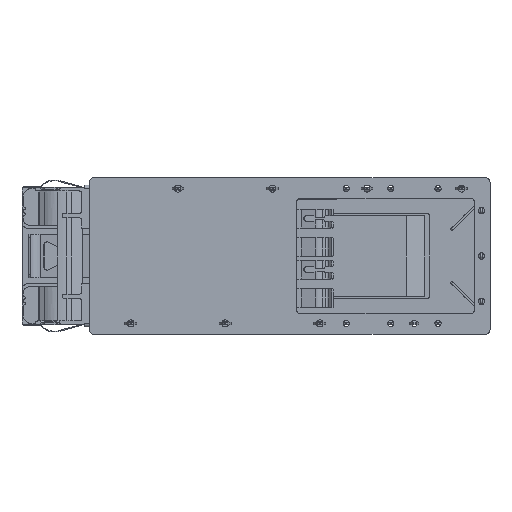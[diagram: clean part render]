
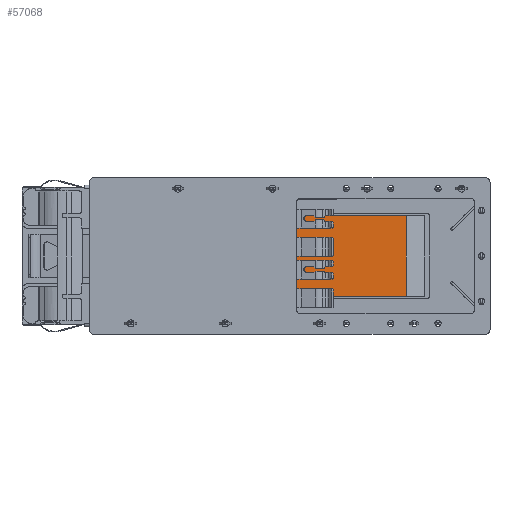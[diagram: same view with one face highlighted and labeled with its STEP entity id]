
A CAD part, front view. The second image highlights one B-rep face of the part: STEP entity #57068.
In plain terms, the highlighted planar face has unit normal (0, -1, 0).
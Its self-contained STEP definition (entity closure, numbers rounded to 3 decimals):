
#3349 = VECTOR ( 'NONE', #25259, 1000. ) ;
#4019 = CARTESIAN_POINT ( 'NONE',  ( 40.645, -0.85, -11.5 ) ) ;
#4739 = AXIS2_PLACEMENT_3D ( 'NONE', #43650, #16456, #48301 ) ;
#5439 = ORIENTED_EDGE ( 'NONE', *, *, #14724, .F. ) ;
#6551 = LINE ( 'NONE', #49540, #52245 ) ;
#6859 = CARTESIAN_POINT ( 'NONE',  ( 15.755, -0.85, -11.5 ) ) ;
#9819 = ORIENTED_EDGE ( 'NONE', *, *, #19272, .F. ) ;
#11631 = PLANE ( 'NONE',  #4739 ) ;
#14724 = EDGE_CURVE ( 'NONE', #48180, #23781, #6551, .T. ) ;
#15542 = LINE ( 'NONE', #20711, #3349 ) ;
#16456 = DIRECTION ( 'NONE',  ( 0., 1., 0. ) ) ;
#17778 = CARTESIAN_POINT ( 'NONE',  ( 40.645, -0.85, -3. ) ) ;
#19272 = EDGE_CURVE ( 'NONE', #33891, #32807, #15542, .T. ) ;
#20095 = VECTOR ( 'NONE', #25857, 1000. ) ;
#20711 = CARTESIAN_POINT ( 'NONE',  ( 15.755, -0.85, -11.5 ) ) ;
#22222 = DIRECTION ( 'NONE',  ( 0., 0., -1. ) ) ;
#22619 = DIRECTION ( 'NONE',  ( -1., 0., 0. ) ) ;
#23649 = FACE_OUTER_BOUND ( 'NONE', #54962, .T. ) ;
#23781 = VERTEX_POINT ( 'NONE', #4019 ) ;
#25259 = DIRECTION ( 'NONE',  ( 0., 0., 1. ) ) ;
#25857 = DIRECTION ( 'NONE',  ( 1., 0., 0. ) ) ;
#30429 = CARTESIAN_POINT ( 'NONE',  ( 40.645, -0.85, -3. ) ) ;
#32162 = LINE ( 'NONE', #30429, #20095 ) ;
#32807 = VERTEX_POINT ( 'NONE', #43450 ) ;
#33891 = VERTEX_POINT ( 'NONE', #6859 ) ;
#35838 = LINE ( 'NONE', #36384, #57198 ) ;
#36384 = CARTESIAN_POINT ( 'NONE',  ( 40.645, -0.85, -11.5 ) ) ;
#43450 = CARTESIAN_POINT ( 'NONE',  ( 15.755, -0.85, -3. ) ) ;
#43650 = CARTESIAN_POINT ( 'NONE',  ( 40.645, -0.85, -11.5 ) ) ;
#48180 = VERTEX_POINT ( 'NONE', #17778 ) ;
#48301 = DIRECTION ( 'NONE',  ( 0., 0., 1. ) ) ;
#49540 = CARTESIAN_POINT ( 'NONE',  ( 40.645, -0.85, -11.5 ) ) ;
#49547 = EDGE_CURVE ( 'NONE', #32807, #48180, #32162, .T. ) ;
#51457 = ORIENTED_EDGE ( 'NONE', *, *, #49547, .F. ) ;
#52245 = VECTOR ( 'NONE', #22222, 1000. ) ;
#54962 = EDGE_LOOP ( 'NONE', ( #57277, #5439, #51457, #9819 ) ) ;
#56654 = EDGE_CURVE ( 'NONE', #23781, #33891, #35838, .T. ) ;
#57068 = ADVANCED_FACE ( 'NONE', ( #23649 ), #11631, .F. ) ;
#57198 = VECTOR ( 'NONE', #22619, 1000. ) ;
#57277 = ORIENTED_EDGE ( 'NONE', *, *, #56654, .F. ) ;
